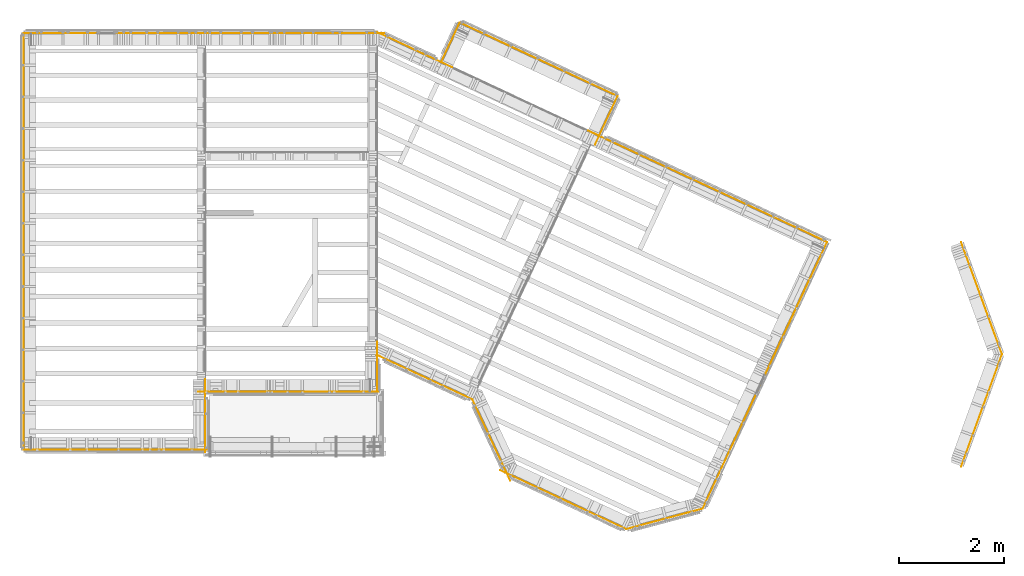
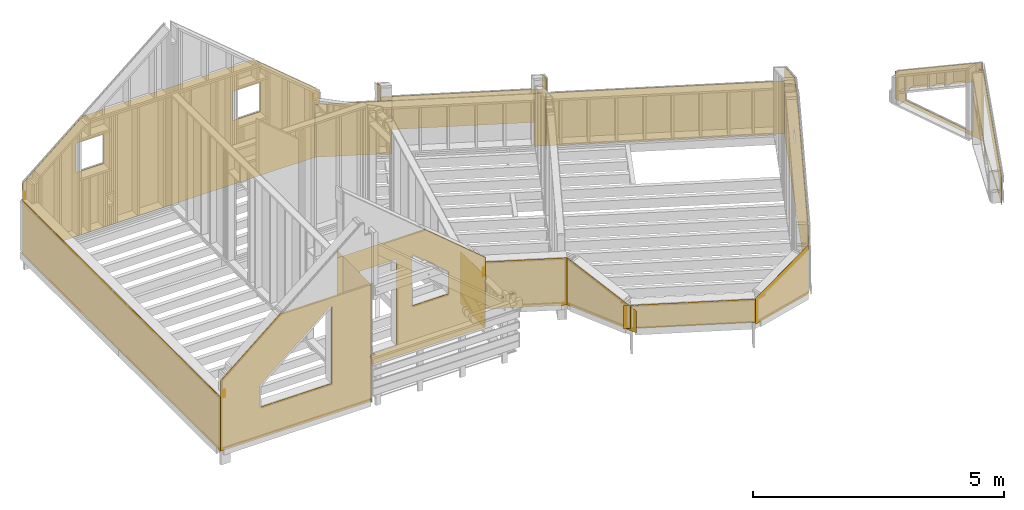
# One storey, part 24 of 24: 18 curtain walls.
"""IFC2X3 building model written with IfcOpenShell, lengths in metres."""

from ifc_helpers import new_model, si_unit, direction, frame, origin_with_axes, place, context, subcontext, project, spatial, faceted_brep, material, element, save


model = new_model("IFC2X3")

# Units and contexts
model_context = context("Model", 3, precision=1e-06, world=origin_with_axes(), true_north=direction((0.0, 1.0, 0.0)))
body_context = subcontext(model_context, "Body", "Model", "MODEL_VIEW")
ifc_project = project(units=[si_unit("LENGTHUNIT", "METRE"), si_unit("AREAUNIT", "SQUARE_METRE"), si_unit("VOLUMEUNIT", "CUBIC_METRE"), si_unit("PLANEANGLEUNIT", "RADIAN")], contexts=[model_context])

# Site, building, storey
site_placement = place(None, origin_with_axes())
site = spatial("IfcSite", under=ifc_project, at=site_placement, CompositionType="ELEMENT")
building_placement = place(site_placement, origin_with_axes())
building = spatial("IfcBuilding", under=site, at=building_placement, Name="Building 1", CompositionType="ELEMENT")
storey_placement = place(building_placement, origin_with_axes())
storey = spatial("IfcBuildingStorey", under=building, at=storey_placement, Name="Premier Etage", CompositionType="ELEMENT", Elevation=0.0)

# Curtain walls
ifc_material = material(Name="pare-pluie")
curtain_wall_1_placement = place(storey_placement, frame((14.0740479, 1.4087534, 2.703), z_axis=(0.0, 0.0, 1.0), x_axis=(-0.4226183, -0.9063078, 0.0)))
element("IfcCurtainWall", 1, at=curtain_wall_1_placement, inside=storey, material=ifc_material, Name="Pare-pluie", context=body_context, shape_type="Brep", body=[
    faceted_brep([(-2.7934224, 0.00045, 1.6534968), (-2.7934224, 0.00045, 0.0), (-2.7934224, -0.00045, 0.0), (-2.7934224, -0.00045, 1.6534968), (2.7926672, 0.00045, 0.0), (2.7934224, -0.00045, 0.0), (-0.3983278, 0.00045, 3.0363053), (0.2083238, 0.00045, 3.0363053), (2.7926672, 0.00045, 1.544234), (-0.5144132, 0.00045, 1.4523223), (-0.3709741, 0.00045, 1.4523223), (-0.3709741, 0.00045, 1.6923223), (-0.5144132, 0.00045, 1.6923223), (2.7934224, -0.00045, 1.543798), (0.2083238, -0.00045, 3.0363053), (-0.3983278, -0.00045, 3.0363053), (-0.3705544, -0.00045, 1.4523223), (-0.5139936, -0.00045, 1.4523223), (-0.5139936, -0.00045, 1.6923223), (-0.3705544, -0.00045, 1.6923223)], [[[0, 1, 2, 3]], [[2, 1, 4, 5]], [[1, 0, 6, 7, 8, 4], [9, 10, 11, 12]], [[8, 13, 5, 4]], [[3, 2, 5, 13, 14, 15], [16, 17, 18, 19]], [[13, 8, 7, 14]], [[19, 18, 12, 11]], [[16, 19, 11, 10]], [[17, 16, 10, 9]], [[18, 17, 9, 12]], [[6, 15, 14, 7]], [[0, 3, 15, 6]]]),
])
curtain_wall_2_placement = place(storey_placement, frame((12.1680099, -1.3175071, 2.703), z_axis=(0.0, 0.0, 1.0), x_axis=(-0.9659258, -0.258819, 0.0)))
element("IfcCurtainWall", 2, at=curtain_wall_2_placement, inside=storey, material=ifc_material, Name="Pare-pluie", context=body_context, shape_type="Brep", body=[
    faceted_brep([(0.7497048, 0.00045, 0.0), (0.7497048, 0.00045, 0.6387039), (0.7507774, -0.00045, 0.6383058), (0.7507774, -0.00045, 0.0), (-0.7500222, 0.00045, 1.195273), (-0.7507774, -0.00045, 1.1955532), (-0.7500222, 0.00045, 0.0), (-0.7507774, -0.00045, 0.0)], [[[0, 1, 2, 3]], [[2, 1, 4, 5]], [[1, 0, 6, 4]], [[5, 4, 6, 7]], [[3, 2, 5, 7]], [[0, 3, 7, 6]]]),
])
curtain_wall_3_placement = place(storey_placement, frame((7.4194442, 7.59355, 2.703), z_axis=(0.0, 0.0, 1.0), x_axis=(0.9063078, -0.4226183, 0.0)))
element("IfcCurtainWall", 3, at=curtain_wall_3_placement, inside=storey, material=ifc_material, Name="Pare-pluie", context=body_context, shape_type="Brep", body=[
    faceted_brep([(-0.7925712, -0.00045, 1.2880549), (-0.7925712, 0.00045, 1.2880549), (-0.7925712, 0.00045, 0.0), (-0.7925712, -0.00045, 0.0), (0.7925712, 0.00045, 1.2880549), (0.7925712, 0.00045, 0.0), (0.7925712, -0.00045, 1.2880549), (0.7925712, -0.00045, 0.0)], [[[0, 1, 2, 3]], [[2, 1, 4, 5]], [[1, 0, 6, 4]], [[5, 4, 6, 7]], [[3, 2, 5, 7]], [[0, 3, 7, 6]]]),
])
curtain_wall_4_placement = place(storey_placement, frame((5.0245, 1.1002781, 2.703), z_axis=(0.0, 0.0, 1.0), x_axis=(0.0, 1.0, 0.0)))
element("IfcCurtainWall", 4, at=curtain_wall_4_placement, inside=storey, material=ifc_material, Name="Pare-pluie", context=body_context, shape_type="Brep", body=[
    faceted_brep([(-0.00045, -0.0080389, 1.11), (-0.00045, -0.8480389, 1.11), (0.00045, -0.8480389, 1.11), (0.00045, -0.0080389, 1.11), (-0.00045, -0.0080389, 2.368), (0.00045, -0.0080389, 2.368), (-0.00045, -0.8480389, 1.6631563), (0.00045, -0.8480389, 1.6631563), (-0.00045, -1.7085, 1.6995812), (-0.00045, -0.3047453, 2.8774713), (-0.00045, 1.7085, 2.8774713), (-0.00045, 1.7085, 0.0), (-0.00045, -1.7085, 0.0), (-0.00045, 0.3353503, 0.26), (-0.00045, 1.1753503, 0.26), (-0.00045, 1.1753503, 2.368), (-0.00045, 0.3353503, 2.368), (0.00045, 1.1753503, 0.26), (0.00045, 1.1753503, 2.368), (0.00045, 0.3353503, 2.368), (0.00045, 0.3353503, 0.26), (0.00045, -1.7085, 1.6995812), (0.00045, -0.3047453, 2.8774713), (0.00045, 1.7085, 2.8774713), (0.00045, -1.7085, 0.0), (0.00045, 1.7085, 0.0)], [[[0, 1, 2, 3]], [[4, 0, 3, 5]], [[6, 4, 5, 7]], [[1, 6, 7, 2]], [[8, 9, 10, 11, 12], [4, 6, 1, 0], [13, 14, 15, 16]], [[15, 14, 17, 18]], [[16, 15, 18, 19]], [[13, 16, 19, 20]], [[14, 13, 20, 17]], [[9, 8, 21, 22]], [[9, 22, 23, 10]], [[21, 8, 12, 24]], [[10, 23, 25, 11]], [[25, 24, 12, 11]], [[22, 21, 24, 25, 23], [7, 5, 3, 2], [20, 19, 18, 17]]]),
])
curtain_wall_5_placement = place(storey_placement, frame((6.70855, 1.5761012, 2.703), z_axis=(0.0, 0.0, 1.0), x_axis=(0.0, -1.0, 0.0)))
element("IfcCurtainWall", 5, at=curtain_wall_5_placement, inside=storey, material=ifc_material, Name="Pare-pluie", context=body_context, shape_type="Brep", body=[
    faceted_brep([(0.4753731, -0.00045, 1.2798151), (0.4753731, -0.00045, 0.0), (0.4753731, 0.00045, 0.0), (0.4753731, 0.00045, 1.2798151), (-0.4753731, -0.00045, 0.0), (-0.4753731, 0.00045, 0.0), (-0.4753731, -0.00045, 1.2798151), (-0.4753731, 0.00045, 1.2798151)], [[[0, 1, 2, 3]], [[2, 1, 4, 5]], [[1, 0, 6, 4]], [[5, 4, 6, 7]], [[3, 2, 5, 7]], [[0, 3, 7, 6]]]),
])
curtain_wall_6_placement = place(storey_placement, frame((-0.00055, 3.954, 2.703), z_axis=(0.0, 0.0, 1.0), x_axis=(0.0, 1.0, 0.0)))
element("IfcCurtainWall", 6, at=curtain_wall_6_placement, inside=storey, material=ifc_material, Name="Pare-pluie", context=body_context, shape_type="Brep", body=[
    faceted_brep([(-3.9541, 0.00045, 1.3198151), (-3.9541, 0.00045, 0.0), (-3.9541, -0.00045, 0.0), (-3.9541, -0.00045, 1.3198151), (3.9541, 0.00045, 0.0), (3.9541, -0.00045, 0.0), (3.9541, 0.00045, 1.3198151), (3.9541, -0.00045, 1.3198151)], [[[0, 1, 2, 3]], [[2, 1, 4, 5]], [[1, 0, 6, 4]], [[5, 4, 6, 7]], [[3, 2, 5, 7]], [[0, 3, 7, 6]]]),
])
curtain_wall_7_placement = place(storey_placement, frame((11.0625895, 6.2511796, 2.703), z_axis=(0.0, 0.0, 1.0), x_axis=(-0.4226183, -0.9063078, 0.0)))
element("IfcCurtainWall", 7, at=curtain_wall_7_placement, inside=storey, material=ifc_material, Name="Pare-pluie", context=body_context, shape_type="Brep", body=[
    faceted_brep([(-0.5056089, -0.00045, 1.175325), (-0.5056089, 0.00045, 1.175325), (-0.5056089, 0.00045, 0.0), (-0.5056089, -0.00045, 0.0), (0.5056089, 0.00045, 1.7591519), (0.5056089, 0.00045, 0.0), (0.5056089, -0.00045, 1.7591519), (0.5056089, -0.00045, 0.0)], [[[0, 1, 2, 3]], [[2, 1, 4, 5]], [[1, 0, 6, 4]], [[0, 3, 7, 6]], [[4, 6, 7, 5]], [[3, 2, 5, 7]]]),
])
curtain_wall_8_placement = place(storey_placement, frame((8.8828856, 0.180076, 2.703), z_axis=(0.0, 0.0, 1.0), x_axis=(-0.4226183, 0.9063078, 0.0)))
element("IfcCurtainWall", 8, at=curtain_wall_8_placement, inside=storey, material=ifc_material, Name="Pare-pluie", context=body_context, shape_type="Brep", body=[
    faceted_brep([(0.8480178, 0.00045, 1.1556408), (0.8469453, -0.00045, 1.1556408), (0.8469453, -0.00045, 0.0), (0.8480178, 0.00045, 0.0), (0.8352935, -0.00045, 1.1556408), (-0.8480178, -0.00045, 0.5309411), (-0.8480178, -0.00045, 0.0), (0.8352935, 0.00045, 1.1556408), (-0.8480178, 0.00045, 0.5309411), (-0.8480178, 0.00045, 0.0)], [[[0, 1, 2, 3]], [[2, 1, 4, 5, 6]], [[1, 0, 7, 4]], [[4, 7, 8, 5]], [[5, 8, 9, 6]], [[0, 3, 9, 8, 7]], [[3, 2, 6, 9]]]),
])
curtain_wall_9_placement = place(storey_placement, frame((12.9846491, 4.9984524, 2.703), z_axis=(0.0, 0.0, 1.0), x_axis=(0.9063078, -0.4226183, 0.0)))
element("IfcCurtainWall", 9, at=curtain_wall_9_placement, inside=storey, material=ifc_material, Name="Pare-pluie", context=body_context, shape_type="Brep", body=[
    faceted_brep([(2.503953, -0.00045, 1.2880549), (2.503953, -0.00045, 0.0), (2.503953, 0.00045, 0.0), (2.503953, 0.00045, 1.2880549), (-2.503953, -0.00045, 0.0), (-2.503953, 0.00045, 0.0), (-2.503953, -0.00045, 1.2880549), (-2.503953, 0.00045, 1.2880549)], [[[0, 1, 2, 3]], [[2, 1, 4, 5]], [[1, 0, 6, 4]], [[5, 4, 6, 7]], [[3, 2, 5, 7]], [[0, 3, 7, 6]]]),
])
curtain_wall_10_placement = place(storey_placement, frame((9.7765473, 7.4082521, 2.703), z_axis=(0.0, 0.0, 1.0), x_axis=(0.9063078, -0.4226183, 0.0)))
element("IfcCurtainWall", 10, at=curtain_wall_10_placement, inside=storey, material=ifc_material, Name="Pare-pluie", context=body_context, shape_type="Brep", body=[
    faceted_brep([(-1.6541, 0.00045, 0.0), (-1.6541, -0.00045, 0.0), (-1.6541, -0.00045, 0.8098974), (-1.6541, 0.00045, 0.8098974), (1.6541, -0.00045, 0.0), (1.6541, -0.00045, 0.8098974), (1.6541, 0.00045, 0.0), (1.6541, 0.00045, 0.8098974)], [[[0, 1, 2, 3]], [[2, 1, 4, 5]], [[1, 0, 6, 4]], [[5, 4, 6, 7]], [[0, 3, 7, 6]], [[3, 2, 5, 7]]]),
])
curtain_wall_11_placement = place(storey_placement, frame((8.1019846, 7.7321397, 2.703), z_axis=(0.0, 0.0, 1.0), x_axis=(0.4226183, 0.9063078, 0.0)))
element("IfcCurtainWall", 11, at=curtain_wall_11_placement, inside=storey, material=ifc_material, Name="Pare-pluie", context=body_context, shape_type="Brep", body=[
    faceted_brep([(0.4146089, 0.00045, 0.0), (0.4146089, 0.00045, 1.175325), (0.4146089, -0.00045, 1.175325), (0.4146089, -0.00045, 0.0), (-0.4146089, 0.00045, 1.6540741), (-0.4146089, -0.00045, 1.6540741), (-0.4146089, 0.00045, 0.0), (-0.4146089, -0.00045, 0.0)], [[[0, 1, 2, 3]], [[2, 1, 4, 5]], [[1, 0, 6, 4]], [[3, 2, 5, 7]], [[5, 4, 6, 7]], [[0, 3, 7, 6]]]),
])
curtain_wall_12_placement = place(storey_placement, frame((3.44855, 0.6434141, 2.703), z_axis=(0.0, 0.0, 1.0), x_axis=(0.0, -1.0, 0.0)))
element("IfcCurtainWall", 12, at=curtain_wall_12_placement, inside=storey, material=ifc_material, Name="Pare-pluie", context=body_context, shape_type="Brep", body=[
    faceted_brep([(0.6894141, -0.00045, 0.0), (0.6894141, 0.00045, 0.0), (0.6894141, 0.00045, 2.8774713), (0.6894141, -0.00045, 2.8774713), (-0.6894141, 0.00045, 0.0), (-0.6894141, 0.00045, 2.8774713), (-0.6894141, -0.00045, 0.0), (-0.6894141, -0.00045, 2.8774713)], [[[0, 1, 2, 3]], [[2, 1, 4, 5]], [[1, 0, 6, 4]], [[5, 4, 6, 7]], [[0, 3, 7, 6]], [[3, 2, 5, 7]]]),
])
curtain_wall_13_placement = place(storey_placement, frame((1.736, -0.00055, 2.703), z_axis=(0.0, 0.0, 1.0), x_axis=(-1.0, 0.0, 0.0)))
element("IfcCurtainWall", 13, at=curtain_wall_13_placement, inside=storey, material=ifc_material, Name="Pare-pluie", context=body_context, shape_type="Brep", body=[
    faceted_brep([(1.737, 0.00045, 0.0), (1.737, 0.00045, 1.7198561), (1.737, -0.00045, 1.7198561), (1.737, -0.00045, 0.0), (0.3574079, 0.00045, 2.8774713), (0.3574079, -0.00045, 2.8774713), (-1.737, 0.00045, 0.0), (-1.737, 0.00045, 2.8774713), (0.832, 0.00045, 1.2838766), (-0.808, 0.00045, 2.66), (-0.808, 0.00045, 0.76), (0.832, 0.00045, 0.76), (-0.808, -0.00045, 2.66), (-0.808, -0.00045, 0.76), (0.832, -0.00045, 0.76), (0.832, -0.00045, 1.2838766), (-1.737, -0.00045, 2.8774713), (-1.737, -0.00045, 0.0)], [[[0, 1, 2, 3]], [[2, 1, 4, 5]], [[1, 0, 6, 7, 4], [8, 9, 10, 11]], [[12, 13, 10, 9]], [[11, 10, 13, 14]], [[8, 11, 14, 15]], [[9, 8, 15, 12]], [[3, 2, 5, 16, 17], [12, 15, 14, 13]], [[16, 7, 6, 17]], [[0, 3, 17, 6]], [[5, 4, 7, 16]]]),
])
curtain_wall_14_placement = place(storey_placement, frame((10.2452564, -0.9535081, 2.755), z_axis=(0.0, 0.0, 1.0), x_axis=(-0.9063078, 0.4226183, 0.0)))
element("IfcCurtainWall", 14, at=curtain_wall_14_placement, inside=storey, material=ifc_material, Name="Pare-pluie", context=body_context, shape_type="Brep", body=[
    faceted_brep([(-1.3199484, 0.00045, 0.0), (-1.3210209, -0.00045, 0.0), (-1.3210209, -0.00045, 0.5686496), (-1.3199484, 0.00045, 0.5686496), (1.3210209, -0.00045, 0.0), (1.3210209, -0.00045, 0.5686496), (1.3210209, 0.00045, 0.0), (1.3210209, 0.00045, 0.5686496)], [[[0, 1, 2, 3]], [[2, 1, 4, 5]], [[1, 0, 6, 4]], [[3, 2, 5, 7]], [[0, 3, 7, 6]], [[4, 6, 7, 5]]]),
])
curtain_wall_15_placement = place(storey_placement, frame((7.6162384, 1.3712926, 2.703), z_axis=(0.0, 0.0, 1.0), x_axis=(-0.9063078, 0.4226183, 0.0)))
element("IfcCurtainWall", 15, at=curtain_wall_15_placement, inside=storey, material=ifc_material, Name="Pare-pluie", context=body_context, shape_type="Brep", body=[
    faceted_brep([(-1.0025661, 0.00045, 0.0), (-1.0014936, -0.00045, 0.0), (-1.0014936, -0.00045, 1.1556408), (-1.0025661, 0.00045, 1.1556408), (1.0025661, -0.00045, 0.0), (1.0025661, -0.00045, 1.1556408), (1.0025661, 0.00045, 0.0), (1.0025661, 0.00045, 1.1556408)], [[[0, 1, 2, 3]], [[2, 1, 4, 5]], [[1, 0, 6, 4]], [[0, 3, 7, 6]], [[3, 2, 5, 7]], [[5, 4, 6, 7]]]),
])
curtain_wall_16_placement = place(storey_placement, frame((3.4200712, 7.90855, 2.703), z_axis=(0.0, 0.0, 1.0), x_axis=(1.0, 0.0, 0.0)))
element("IfcCurtainWall", 16, at=curtain_wall_16_placement, inside=storey, material=ifc_material, Name="Pare-pluie", context=body_context, shape_type="Brep", body=[
    faceted_brep([(-3.4210712, 0.00045, 1.7198561), (-3.4210712, 0.00045, 0.0), (-3.4210712, -0.00045, 0.0), (-3.4210712, -0.00045, 1.7198561), (3.4210712, 0.00045, 0.0), (3.4210712, -0.00045, 0.0), (-2.0414791, 0.00045, 2.8774713), (1.9091741, 0.00045, 2.8774713), (3.4210712, 0.00045, 1.608839), (-2.1885712, 0.00045, 2.268), (-2.1885712, 0.00045, 1.56), (-1.5485712, 0.00045, 1.56), (-1.5485712, 0.00045, 2.268), (1.4164288, 0.00045, 2.268), (1.4164288, 0.00045, 1.56), (2.0564288, 0.00045, 1.56), (2.0564288, 0.00045, 2.268), (3.4210712, -0.00045, 1.608839), (1.9091741, -0.00045, 2.8774713), (-2.0414791, -0.00045, 2.8774713), (-2.1885712, -0.00045, 1.56), (-2.1885712, -0.00045, 2.268), (-1.5485712, -0.00045, 2.268), (-1.5485712, -0.00045, 1.56), (1.4164288, -0.00045, 1.56), (1.4164288, -0.00045, 2.268), (2.0564288, -0.00045, 2.268), (2.0564288, -0.00045, 1.56)], [[[0, 1, 2, 3]], [[2, 1, 4, 5]], [[1, 0, 6, 7, 8, 4], [9, 10, 11, 12], [13, 14, 15, 16]], [[3, 2, 5, 17, 18, 19], [20, 21, 22, 23], [24, 25, 26, 27]], [[11, 10, 20, 23]], [[9, 12, 22, 21]], [[12, 11, 23, 22]], [[7, 18, 17, 8]], [[8, 17, 5, 4]], [[6, 19, 18, 7]], [[0, 3, 19, 6]], [[10, 9, 21, 20]], [[13, 16, 26, 25]], [[15, 14, 24, 27]], [[14, 13, 25, 24]], [[16, 15, 27, 26]]]),
])
curtain_wall_17_placement = place(storey_placement, frame((18.1916537, 0.744126, 2.66), z_axis=(0.0, 0.0, 1.0), x_axis=(-0.3420201, -0.9396926, 0.0)))
element("IfcCurtainWall", 17, at=curtain_wall_17_placement, inside=storey, material=ifc_material, Name="Pare-pluie", context=body_context, shape_type="Brep", body=[
    faceted_brep([(-1.1328088, 0.00045, 0.0), (-1.1338814, -0.00045, 0.0), (-1.1338814, -0.00045, 1.9104975), (-1.1328088, 0.00045, 1.9099156), (1.1338814, -0.00045, 0.0), (1.1338814, -0.00045, 0.6801642), (-0.8944773, -0.00045, 1.3218493), (0.8544511, -0.00045, 0.373), (0.8544511, -0.00045, 0.095), (-0.8944773, -0.00045, 0.095), (1.1335538, 0.00045, 0.0), (1.1335538, 0.00045, 0.6803419), (0.8544511, 0.00045, 0.373), (-0.8944773, 0.00045, 1.3218493), (-0.8944773, 0.00045, 0.095), (0.8544511, 0.00045, 0.095)], [[[0, 1, 2, 3]], [[2, 1, 4, 5], [6, 7, 8, 9]], [[1, 0, 10, 4]], [[0, 3, 11, 10], [12, 13, 14, 15]], [[4, 10, 11, 5]], [[15, 14, 9, 8]], [[12, 15, 8, 7]], [[13, 12, 7, 6]], [[14, 13, 6, 9]], [[3, 2, 5, 11]]]),
])
curtain_wall_18_placement = place(storey_placement, frame((18.1920569, 2.8743259, 2.66), z_axis=(0.0, 0.0, 1.0), x_axis=(0.3420201, -0.9396926, 0.0)))
element("IfcCurtainWall", 18, at=curtain_wall_18_placement, inside=storey, material=ifc_material, Name="Pare-pluie", context=body_context, shape_type="Brep", body=[
    faceted_brep([(-1.1337751, 0.00045, 0.6808615), (-1.1337751, 0.00045, 0.0), (-1.1341026, -0.00045, 0.0), (-1.1341026, -0.00045, 0.6806838), (1.1330301, 0.00045, 0.0), (1.1341026, -0.00045, 0.0), (1.1330301, 0.00045, 1.9106753), (0.8932985, 0.00045, 1.3218493), (-0.85563, 0.00045, 0.373), (-0.85563, 0.00045, 0.095), (0.8932985, 0.00045, 0.095), (1.1341026, -0.00045, 1.9112572), (-0.85563, -0.00045, 0.373), (0.8932985, -0.00045, 1.3218493), (0.8932985, -0.00045, 0.095), (-0.85563, -0.00045, 0.095)], [[[0, 1, 2, 3]], [[2, 1, 4, 5]], [[1, 0, 6, 4], [7, 8, 9, 10]], [[5, 4, 6, 11]], [[0, 3, 11, 6]], [[3, 2, 5, 11], [12, 13, 14, 15]], [[10, 9, 15, 14]], [[7, 10, 14, 13]], [[8, 7, 13, 12]], [[9, 8, 12, 15]]]),
])

save(model, "model.ifc")
